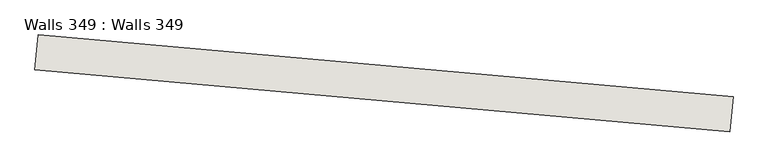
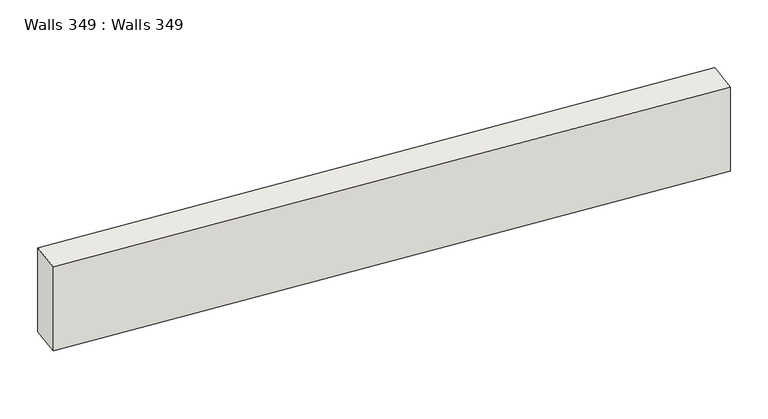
"""IFC4 building model written with IfcOpenShell, lengths in millimetres: wall geometry, Walls 349 : Walls 349."""

from ifc_helpers import new_model, si_unit, frame, origin, place, context, project, spatial, polyline, outline, extrude, source, transform, mapped, element, save


def walls_349_walls_349_2617f160(model_context):
    return source(origin(), model_context, "Body", "SweptSolid", [
        extrude(outline(polyline([(-758302.2598458, -411122.7006871), (-758337.7547759, -411521.122712), (-766306.1952742, -410811.2241108), (-766270.7003441, -410412.8020859), (-758302.2598458, -411122.7006871)])), frame((0.0, 0.0, 635860.0), z_axis=(0.0, 0.0, 1.0), x_axis=(1.0, 0.0, 0.0)), (0.0, 0.0, 1.0), 1100.0),
    ])


if __name__ == "__main__":
    model = new_model("IFC4")
    model_context = context("Model", 3, world=origin())
    ifc_project = project(units=[si_unit("LENGTHUNIT", "METRE", prefix="MILLI")], contexts=[model_context])
    site = spatial("IfcSite", under=ifc_project)
    building = spatial("IfcBuilding", under=site)
    placement = place(None, origin())
    walls_349_walls_349_shape = walls_349_walls_349_2617f160(model_context)
    element("IfcWall", 1, ObjectType="Walls 349 : Walls 349", at=placement, inside=building, context=model_context, shape_type="MappedRepresentation", body=[
        mapped(walls_349_walls_349_shape, transform((0.0, 0.0, 0.0), x_axis=(1.0, 0.0, 0.0), y_axis=(0.0, 1.0, 0.0), z_axis=(0.0, 0.0, 1.0))),
    ])
    save(model, "model.ifc")
